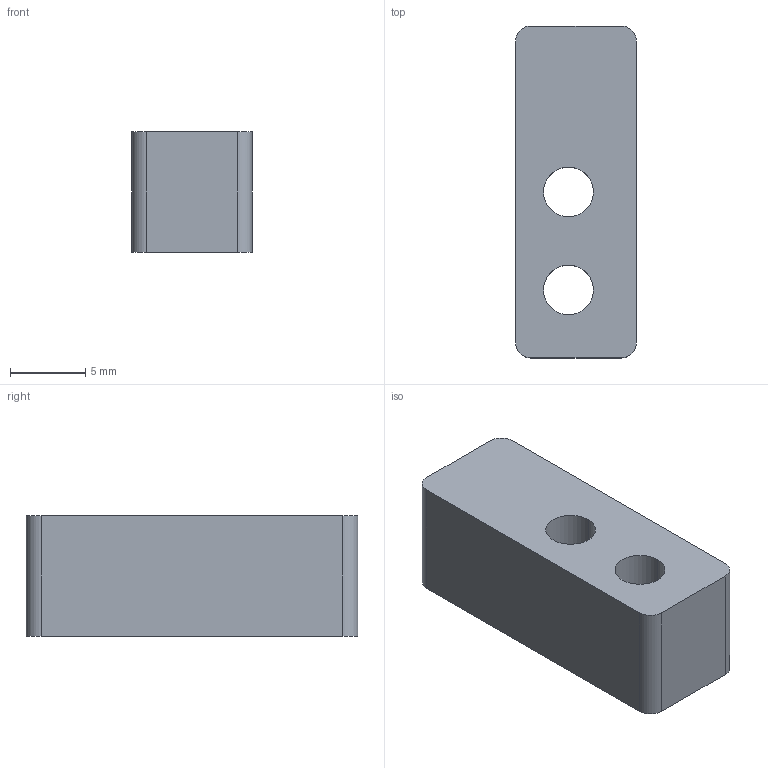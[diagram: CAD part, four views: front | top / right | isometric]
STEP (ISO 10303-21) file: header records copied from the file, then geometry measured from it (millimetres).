
FILE_DESCRIPTION (( 'STEP AP214' ), '1' );
FILE_NAME ('垫块7.STEP', '2026-09-29T10:36:16', ( '微软用户' ), ( '微软中国' ), 'SwSTEP 2.0', 'SolidWorks 2016', '' );
FILE_SCHEMA (( 'AUTOMOTIVE_DESIGN' ));
Length unit declared in the file: millimetre
Products named in the file (1): 菜輸7
Bounding box: 8 x 22 x 8 mm (x, y, z)
Volume: 1228.4 mm3; surface area: 1002.8 mm2
Topology: 1 solids, 1 shells, 20 faces, 53 edges, 33 vertices
Faces by surface type: cylinder 10, plane 6, cone 4
Entity records: 679 total; most frequent: DIRECTION 115, CARTESIAN_POINT 108, ORIENTED_EDGE 102, EDGE_CURVE 51, AXIS2_PLACEMENT_3D 44, VERTEX_POINT 33, LINE 27, VECTOR 27
